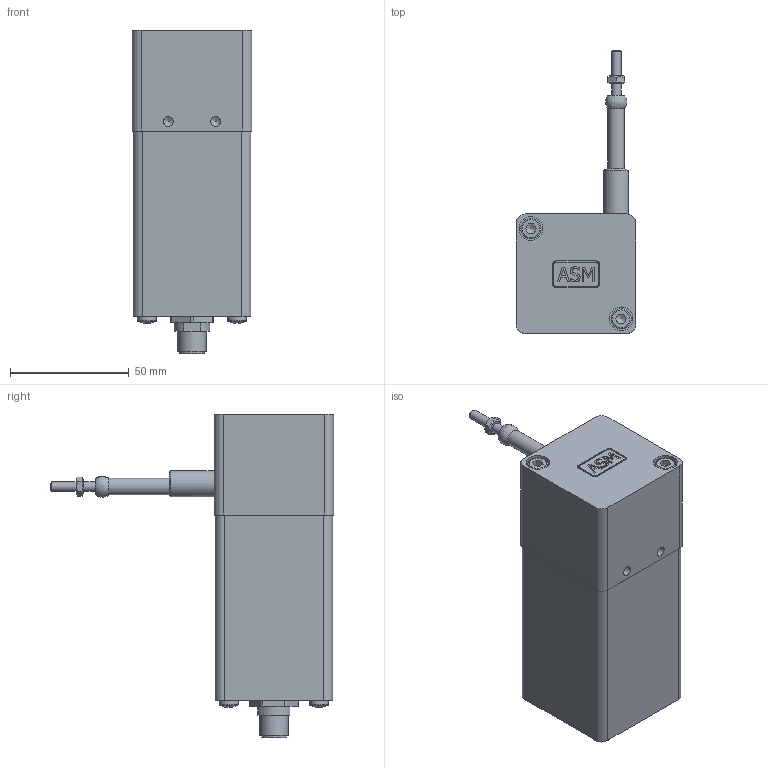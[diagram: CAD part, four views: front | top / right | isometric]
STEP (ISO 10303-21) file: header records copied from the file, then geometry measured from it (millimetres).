
FILE_DESCRIPTION((''),'2;1');
FILE_NAME('K:\Daten\WS10 1250 PP530 M4 M12.stp','2014-09-24T12:00:34',('kamp'),(''),'Autodesk Inventor 2008','Autodesk Inventor 2008','');
FILE_SCHEMA(('AUTOMOTIVE_DESIGN { 1 0 10303 214 1 1 1 1 }'));
Length unit declared in the file: millimetre
Products named in the file (1): Bauteil16
Bounding box: 50.35 x 119.35 x 136.4 mm (x, y, z)
Volume: 302059.2 mm3; surface area: 32378.7 mm2
Topology: 1 solids, 1 shells, 249 faces, 638 edges, 421 vertices
Faces by surface type: plane 139, bspline 52, cylinder 44, cone 11, torus 2, sphere 1
Full cylindrical faces by diameter (mm): 0.6 x8, 4 x2, 7 x1, 8 x2, 8.5 x2, 10.4 x1, 12 x1
Entity records: 7840 total; most frequent: CARTESIAN_POINT 2505, ORIENTED_EDGE 1118, DIRECTION 957, EDGE_CURVE 559, VERTEX_POINT 393, EDGE_LOOP 330, AXIS2_PLACEMENT_3D 325, VECTOR 307
